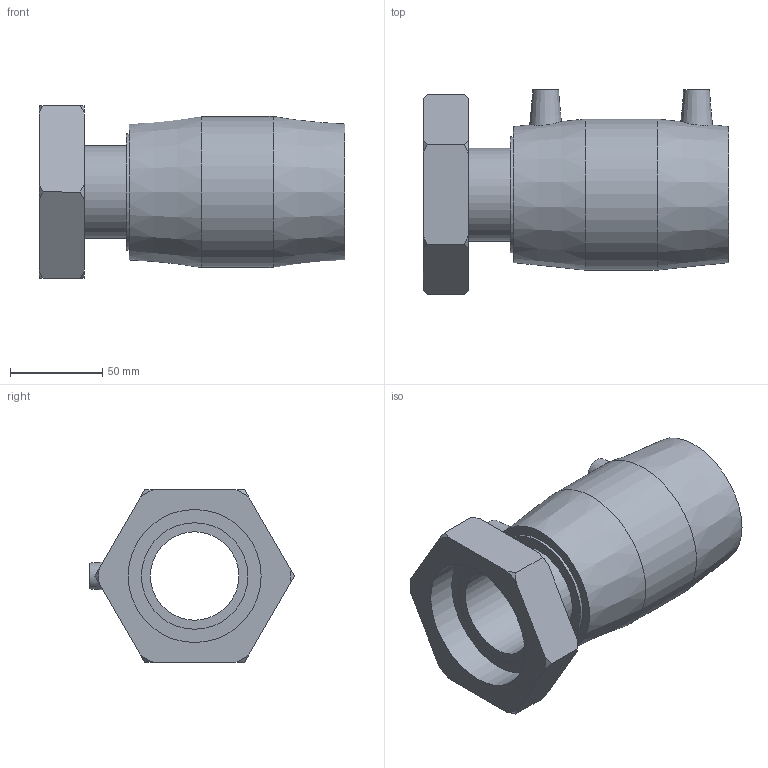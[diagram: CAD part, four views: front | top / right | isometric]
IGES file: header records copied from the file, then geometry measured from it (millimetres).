
Global section: file name: 494104063025.ipt; native system: Autodesk Inventor 2015; preprocessor: unknown; author: KIM; date: 20180426.120803; units: millimetre
Bounding box: 166 x 111.17 x 93.82 mm (x, y, z)
Volume: 407709.5 mm3; surface area: 93243 mm2
Topology: 1 solids, 2 shells, 54 faces, 128 edges, 88 vertices
Faces by surface type: plane 22, cone 16, revolution 9, cylinder 7
Full cylindrical faces by diameter (mm): 4 x2, 50.558 x1, 57.781 x1, 63 x2, 82 x1
